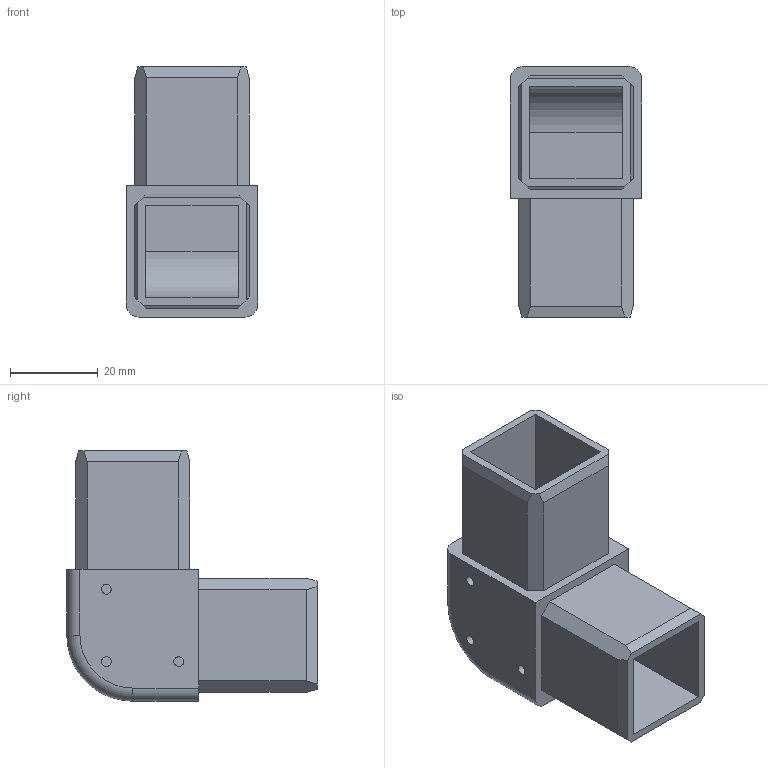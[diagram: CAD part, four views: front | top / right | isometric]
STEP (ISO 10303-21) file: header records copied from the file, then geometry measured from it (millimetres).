
FILE_DESCRIPTION (( 'STEP AP214' ), '1' );
FILE_NAME ('L15815.step', '2024-12-03T16:19:14', ( '' ), ( '' ), 'SwSTEP 2.0', 'SolidWorks 2023', '' );
FILE_SCHEMA (( 'AUTOMOTIVE_DESIGN' ));
Length unit declared in the file: millimetre
Products named in the file (1): L15815
Bounding box: 30 x 57 x 57 mm (x, y, z)
Volume: 24379.4 mm3; surface area: 16247.8 mm2
Topology: 1 solids, 1 shells, 49 faces, 134 edges, 89 vertices
Faces by surface type: plane 38, cylinder 9, torus 2
Full cylindrical faces by diameter (mm): 2.25 x3
Entity records: 1537 total; most frequent: CARTESIAN_POINT 264, ORIENTED_EDGE 256, DIRECTION 248, EDGE_CURVE 128, LINE 108, VECTOR 108, VERTEX_POINT 86, AXIS2_PLACEMENT_3D 70
